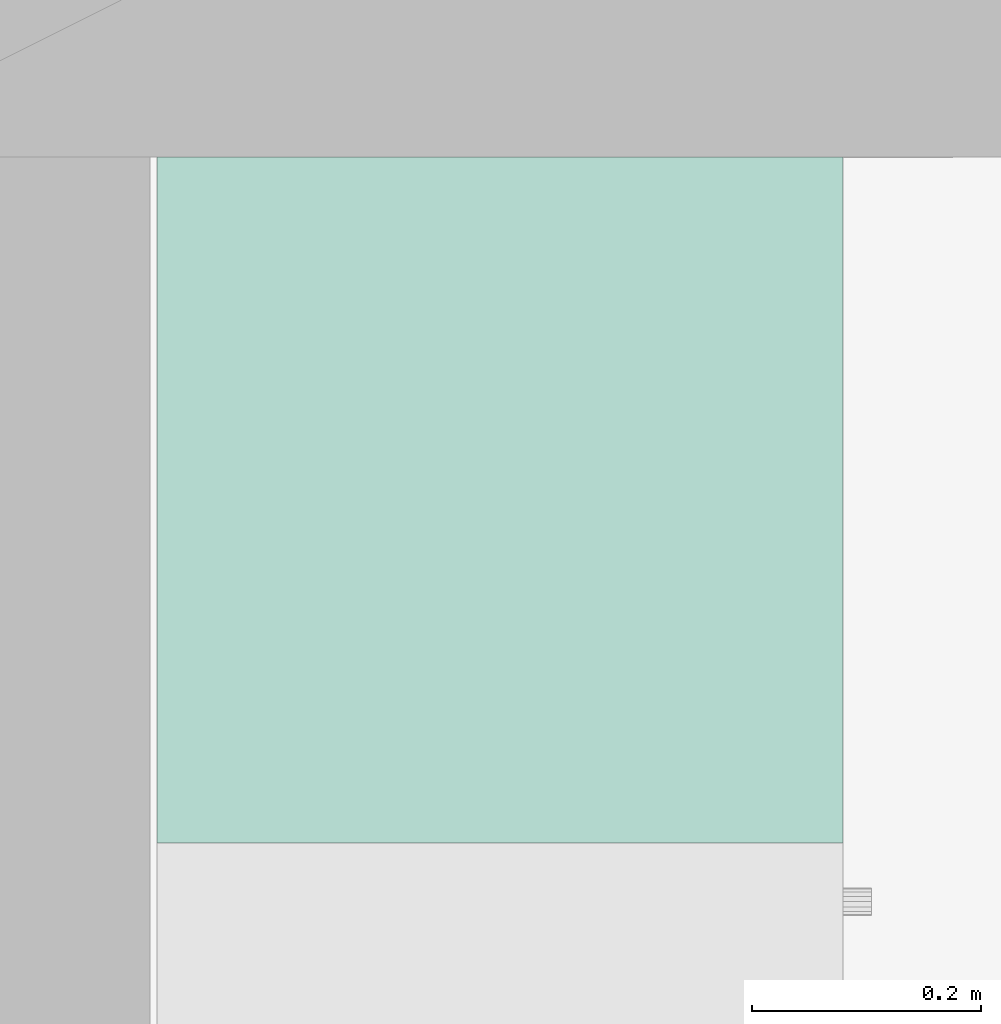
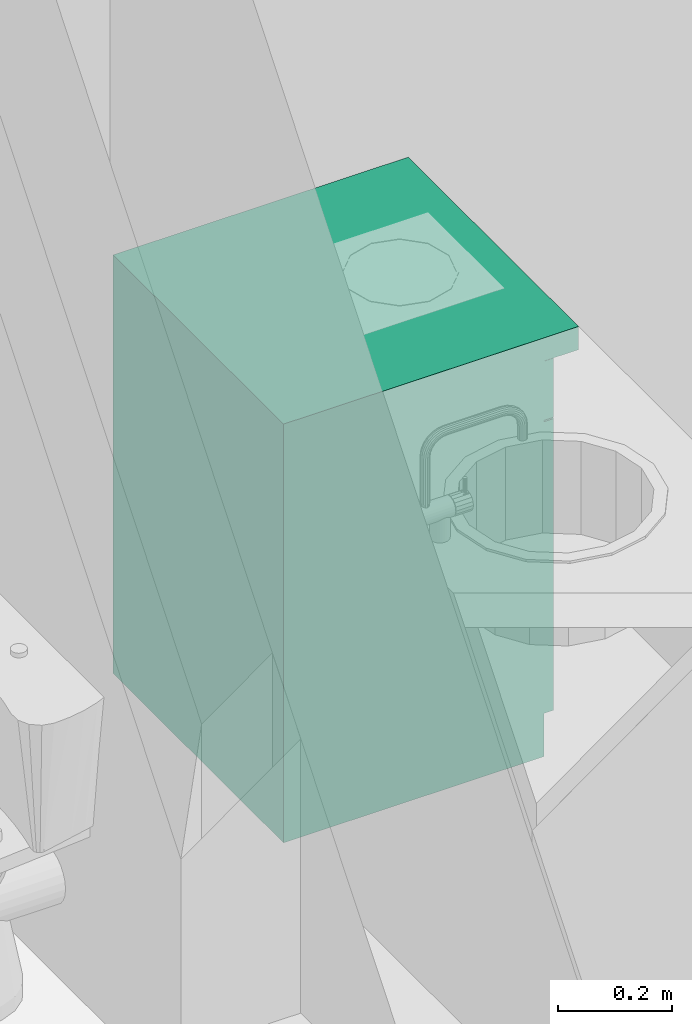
# One storey, part 47 of 172: 1 flow terminal.
"""IFC2X3 building model written with IfcOpenShell, lengths in millimetres."""

from ifc_helpers import new_model, entity, si_unit, converted_unit, money_unit, direction, frame, origin_with_axes, place, context, subcontext, project, spatial, faceted_brep, source, transform, mapped, material, material_list, type_object, element, save


model = new_model("IFC2X3")

# Units and contexts
model_context = context("Model", 3, precision=1e-05, world=origin_with_axes(), true_north=direction((0.0, 1.0)))
body_context = subcontext(model_context, "Body", "Model", "MODEL_VIEW")
ifc_project = project(units=[si_unit("LENGTHUNIT", "METRE", prefix="MILLI"), si_unit("AREAUNIT", "SQUARE_METRE"), si_unit("VOLUMEUNIT", "CUBIC_METRE"), converted_unit("PLANEANGLEUNIT", "DEGREE", entity("IfcPlaneAngleMeasure", 0.0174532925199), si_unit("PLANEANGLEUNIT", "RADIAN"), dimensions=[0, 0, 0, 0, 0, 0, 0]), si_unit("SOLIDANGLEUNIT", "STERADIAN"), money_unit("USD"), converted_unit("TIMEUNIT", "Year", entity("IfcTimeMeasure", 31556926.0), si_unit("TIMEUNIT", "SECOND"), dimensions=[0, 0, 0, 0, 0, 0, 0]), si_unit("MASSUNIT", "GRAM"), si_unit("THERMODYNAMICTEMPERATUREUNIT", "DEGREE_CELSIUS"), si_unit("LUMINOUSINTENSITYUNIT", "LUMEN")], contexts=[model_context])

# Site, building, storey
site_placement = place(None, origin_with_axes())
site = spatial("IfcSite", under=ifc_project, at=site_placement, Name="Site", CompositionType="ELEMENT")
building_placement = place(site_placement, origin_with_axes())
building = spatial("IfcBuilding", under=site, at=building_placement, Name="Building", CompositionType="ELEMENT")
storey_placement = place(building_placement, frame((0.0, 0.0, 3200.0), z_axis=(0.0, 0.0, 1.0), x_axis=(1.0, 0.0, 0.0)))
storey = spatial("IfcBuildingStorey", under=building, at=storey_placement, Name="3KORRUS", CompositionType="ELEMENT", Elevation=3200.0)

# Flow terminal
ifc_material = material(Name="Background")
ifc_material_list = material_list([ifc_material])
sanitary_terminal_type = type_object("IfcSanitaryTerminalType", Name="Cabinet Base Single Door 19", PredefinedType="SINK")
shared_shape = source(origin_with_axes(), body_context, "Body", "Brep", [
    faceted_brep([(20.0, 70.0, 710.0), (580.0, 70.0, 710.0), (580.0, 70.0, 730.0), (20.0, 70.0, 730.0), (20.0, 580.0, 710.0), (580.0, 580.0, 710.0), (580.0, 580.0, 730.0), (20.0, 580.0, 730.0)], [[[0, 1, 2, 3]], [[0, 4, 5, 1]], [[1, 5, 6, 2]], [[3, 2, 6, 7]], [[4, 0, 3, 7]], [[5, 4, 7, 6]]]),
    faceted_brep([(0.0, 70.0, 0.0), (600.0, 70.0, 0.0), (600.0, 70.0, 90.0), (0.0, 70.0, 90.0), (0.0, 600.0, 0.0), (600.0, 600.0, 0.0), (600.0, 600.0, 90.0), (0.0, 600.0, 90.0)], [[[0, 1, 2, 3]], [[0, 4, 5, 1]], [[1, 5, 6, 2]], [[3, 2, 6, 7]], [[4, 0, 3, 7]], [[5, 4, 7, 6]]]),
    faceted_brep([(0.0, 70.0, 830.0), (20.0, 70.0, 830.0), (20.0, 70.0, 850.0), (0.0, 70.0, 850.0), (0.0, 600.0, 830.0), (20.0, 600.0, 830.0), (580.0, 600.0, 830.0), (600.0, 600.0, 830.0), (600.0, 70.0, 830.0), (580.0, 70.0, 830.0), (580.0, 70.0, 850.0), (600.0, 70.0, 850.0), (600.0, 600.0, 850.0), (580.0, 600.0, 850.0), (20.0, 600.0, 850.0), (0.0, 600.0, 850.0)], [[[0, 1, 2, 3]], [[0, 4, 5, 6, 7, 8, 9, 1]], [[1, 9, 10, 2]], [[3, 2, 10, 11, 12, 13, 14, 15]], [[4, 0, 3, 15]], [[5, 4, 15, 14]], [[6, 5, 14, 13]], [[7, 6, 13, 12]], [[8, 7, 12, 11]], [[9, 8, 11, 10]]]),
    faceted_brep([(0.0, 70.0, 90.0), (20.0, 70.0, 90.0), (20.0, 70.0, 110.0), (0.0, 70.0, 110.0), (0.0, 600.0, 90.0), (20.0, 600.0, 90.0), (580.0, 600.0, 90.0), (600.0, 600.0, 90.0), (600.0, 70.0, 90.0), (580.0, 70.0, 90.0), (580.0, 70.0, 110.0), (600.0, 70.0, 110.0), (600.0, 600.0, 110.0), (580.0, 600.0, 110.0), (20.0, 600.0, 110.0), (0.0, 600.0, 110.0)], [[[0, 1, 2, 3]], [[0, 4, 5, 6, 7, 8, 9, 1]], [[1, 9, 10, 2]], [[3, 2, 10, 11, 12, 13, 14, 15]], [[4, 0, 3, 15]], [[5, 4, 15, 14]], [[6, 5, 14, 13]], [[7, 6, 13, 12]], [[8, 7, 12, 11]], [[9, 8, 11, 10]]]),
    faceted_brep([(0.0, 70.0, 110.0), (20.0, 70.0, 110.0), (20.0, 70.0, 830.0), (0.0, 70.0, 830.0), (0.0, 600.0, 110.0), (600.0, 600.0, 110.0), (600.0, 70.0, 110.0), (580.0, 70.0, 110.0), (580.0, 580.0, 110.0), (20.0, 580.0, 110.0), (20.0, 580.0, 830.0), (580.0, 580.0, 830.0), (580.0, 70.0, 830.0), (600.0, 70.0, 830.0), (600.0, 600.0, 830.0), (0.0, 600.0, 830.0)], [[[0, 1, 2, 3]], [[0, 4, 5, 6, 7, 8, 9, 1]], [[1, 9, 10, 2]], [[3, 2, 10, 11, 12, 13, 14, 15]], [[4, 0, 3, 15]], [[5, 4, 15, 14]], [[6, 5, 14, 13]], [[7, 6, 13, 12]], [[8, 7, 12, 11]], [[9, 8, 11, 10]]]),
    faceted_brep([(580.0, 70.0, 385.0), (580.0, 580.0, 385.0), (580.0, 580.0, 405.0), (580.0, 70.0, 405.0), (20.0, 70.0, 385.0), (20.0, 580.0, 385.0), (20.0, 580.0, 405.0), (20.0, 70.0, 405.0)], [[[0, 1, 2, 3]], [[0, 4, 5, 1]], [[1, 5, 6, 2]], [[3, 2, 6, 7]], [[4, 0, 3, 7]], [[5, 4, 7, 6]]]),
    faceted_brep([(0.0, 0.0, 850.0), (600.0, 0.0, 850.0), (600.0, 0.0, 900.0), (0.0, 0.0, 900.0), (0.0, 600.0, 850.0), (600.0, 600.0, 850.0), (600.0, 600.0, 900.0), (0.0, 600.0, 900.0)], [[[0, 1, 2, 3]], [[0, 4, 5, 1]], [[1, 5, 6, 2]], [[3, 2, 6, 7]], [[4, 0, 3, 7]], [[5, 4, 7, 6]]]),
    faceted_brep([(1.5, 70.0, 721.5), (598.5, 70.0, 721.5), (598.5, 50.0, 721.5), (1.5, 50.0, 721.5), (1.5, 70.0, 848.5), (598.5, 70.0, 848.5), (598.5, 50.0, 848.5), (1.5, 50.0, 848.5)], [[[0, 1, 2, 3]], [[0, 4, 5, 1]], [[1, 5, 6, 2]], [[3, 2, 6, 7]], [[4, 0, 3, 7]], [[5, 4, 7, 6]]]),
    faceted_brep([(295.408, 50.0, 773.913), (291.515, 50.0, 776.515), (288.913, 50.0, 780.408), (288.0, 50.0, 785.0), (288.913, 50.0, 789.592), (291.515, 50.0, 793.485), (295.408, 50.0, 796.087), (300.0, 50.0, 797.0), (304.592, 50.0, 796.087), (308.485, 50.0, 793.485), (311.087, 50.0, 789.592), (312.0, 50.0, 785.0), (311.087, 50.0, 780.408), (308.485, 50.0, 776.515), (304.592, 50.0, 773.913), (300.0, 50.0, 773.0), (295.408, 25.0, 773.913), (291.515, 25.0, 776.515), (288.913, 25.0, 780.408), (288.0, 25.0, 785.0), (288.913, 25.0, 789.592), (291.515, 25.0, 793.485), (295.408, 25.0, 796.087), (300.0, 25.0, 797.0), (304.592, 25.0, 796.087), (308.485, 25.0, 793.485), (311.087, 25.0, 789.592), (312.0, 25.0, 785.0), (311.087, 25.0, 780.408), (308.485, 25.0, 776.515), (304.592, 25.0, 773.913), (300.0, 25.0, 773.0)], [[[0, 1, 2, 3, 4, 5, 6, 7, 8, 9, 10, 11, 12, 13, 14, 15]], [[1, 0, 16, 17]], [[2, 1, 17, 18]], [[3, 2, 18, 19]], [[4, 3, 19, 20]], [[5, 4, 20, 21]], [[6, 5, 21, 22]], [[7, 6, 22, 23]], [[8, 7, 23, 24]], [[9, 8, 24, 25]], [[10, 9, 25, 26]], [[11, 10, 26, 27]], [[12, 11, 27, 28]], [[13, 12, 28, 29]], [[14, 13, 29, 30]], [[15, 14, 30, 31]], [[0, 15, 31, 16]], [[16, 31, 30, 29, 28, 27, 26, 25, 24, 23, 22, 21, 20, 19, 18, 17]]]),
    faceted_brep([(1.5, 70.0, 91.5), (598.5, 70.0, 91.5), (598.5, 50.0, 91.5), (1.5, 50.0, 91.5), (1.5, 70.0, 718.5), (598.5, 70.0, 718.5), (598.5, 50.0, 718.5), (1.5, 50.0, 718.5)], [[[0, 1, 2, 3]], [[0, 4, 5, 1]], [[1, 5, 6, 2]], [[3, 2, 6, 7]], [[4, 0, 3, 7]], [[5, 4, 7, 6]]]),
    faceted_brep([(559.587, 50.0, 636.908), (556.985, 50.0, 633.015), (553.092, 50.0, 630.413), (548.5, 50.0, 629.5), (543.908, 50.0, 630.413), (540.015, 50.0, 633.015), (537.413, 50.0, 636.908), (536.5, 50.0, 641.5), (537.413, 50.0, 646.092), (540.015, 50.0, 649.985), (543.908, 50.0, 652.587), (548.5, 50.0, 653.5), (553.092, 50.0, 652.587), (556.985, 50.0, 649.985), (559.587, 50.0, 646.092), (560.5, 50.0, 641.5), (559.587, 25.0, 636.908), (556.985, 25.0, 633.015), (553.092, 25.0, 630.413), (548.5, 25.0, 629.5), (543.908, 25.0, 630.413), (540.015, 25.0, 633.015), (537.413, 25.0, 636.908), (536.5, 25.0, 641.5), (537.413, 25.0, 646.092), (540.015, 25.0, 649.985), (543.908, 25.0, 652.587), (548.5, 25.0, 653.5), (553.092, 25.0, 652.587), (556.985, 25.0, 649.985), (559.587, 25.0, 646.092), (560.5, 25.0, 641.5)], [[[0, 1, 2, 3, 4, 5, 6, 7, 8, 9, 10, 11, 12, 13, 14, 15]], [[1, 0, 16, 17]], [[2, 1, 17, 18]], [[3, 2, 18, 19]], [[4, 3, 19, 20]], [[5, 4, 20, 21]], [[6, 5, 21, 22]], [[7, 6, 22, 23]], [[8, 7, 23, 24]], [[9, 8, 24, 25]], [[10, 9, 25, 26]], [[11, 10, 26, 27]], [[12, 11, 27, 28]], [[13, 12, 28, 29]], [[14, 13, 29, 30]], [[15, 14, 30, 31]], [[0, 15, 31, 16]], [[16, 31, 30, 29, 28, 27, 26, 25, 24, 23, 22, 21, 20, 19, 18, 17]]]),
])
flow_terminal_placement = place(storey_placement, frame((-41384.008308, -13789.2398994, 0.0), z_axis=(0.0, 0.0, 1.0), x_axis=(0.0, 1.0, 0.0)))
element("IfcFlowTerminal", 1, at=flow_terminal_placement, inside=storey, type_object=sanitary_terminal_type, material=ifc_material_list, Name="FU - 007", context=body_context, shape_type="MappedRepresentation", body=[
    mapped(shared_shape, transform((0.0, 0.0, 0.0))),
])

save(model, "model.ifc")
